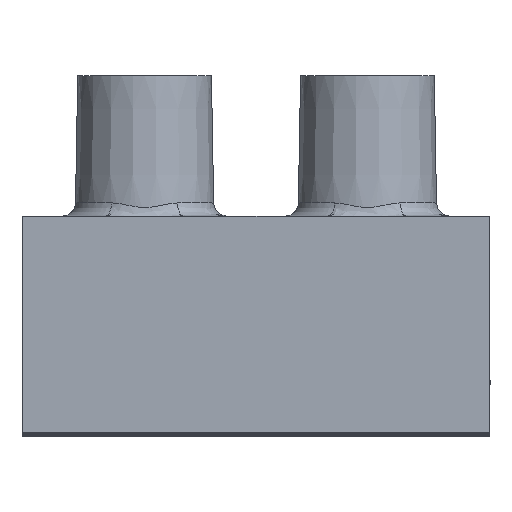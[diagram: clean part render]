
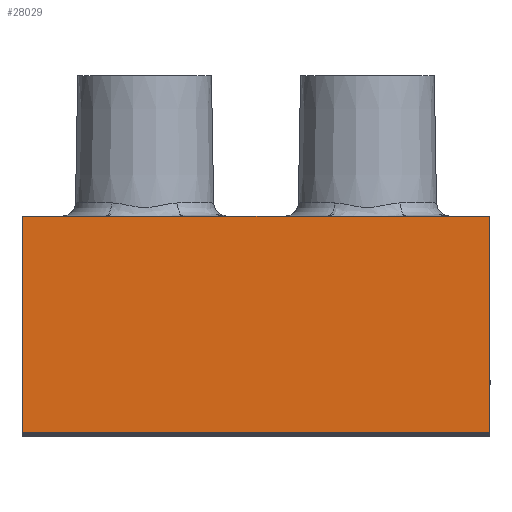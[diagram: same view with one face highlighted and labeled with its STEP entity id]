
A CAD part, top view. The second image highlights one B-rep face of the part: STEP entity #28029.
In plain terms, the highlighted planar face has unit normal (0, 0, 1).
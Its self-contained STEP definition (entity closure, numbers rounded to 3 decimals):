
#4674 = CARTESIAN_POINT ( 'NONE',  ( 0.257, 6.064, 0. ) ) ;
#4914 = CARTESIAN_POINT ( 'NONE',  ( -13.278, 6.064, 0. ) ) ;
#13176 = CARTESIAN_POINT ( 'NONE',  ( 3.99, 6.064, 0. ) ) ;
#13276 = DIRECTION ( 'NONE',  ( 1., 0., 0. ) ) ;
#13277 = VECTOR ( 'NONE', #13276, 1000. ) ;
#13279 = CARTESIAN_POINT ( 'NONE',  ( -6.51, 6.064, 0. ) ) ;
#13281 = LINE ( 'NONE', #13279, #13277 ) ;
#13307 = CARTESIAN_POINT ( 'NONE',  ( -3.278, 6.064, 0. ) ) ;
#13621 = DIRECTION ( 'NONE',  ( 1., 0., 0. ) ) ;
#13623 = VECTOR ( 'NONE', #13621, 1000. ) ;
#13625 = CARTESIAN_POINT ( 'NONE',  ( -6.51, 6.064, 0. ) ) ;
#13626 = LINE ( 'NONE', #13625, #13623 ) ;
#13632 = CARTESIAN_POINT ( 'NONE',  ( -17.01, 6.064, 0. ) ) ;
#13777 = CARTESIAN_POINT ( 'NONE',  ( -9.743, 6.064, 0. ) ) ;
#13997 = DIRECTION ( 'NONE',  ( 1., 0., 0. ) ) ;
#13999 = VECTOR ( 'NONE', #13997, 1000. ) ;
#14001 = CARTESIAN_POINT ( 'NONE',  ( -6.51, 6.064, 0. ) ) ;
#14012 = LINE ( 'NONE', #14001, #13999 ) ;
#14127 = DIRECTION ( 'NONE',  ( 1., 0., 0. ) ) ;
#14128 = VECTOR ( 'NONE', #14127, 1000. ) ;
#14130 = CARTESIAN_POINT ( 'NONE',  ( -6.51, 6.064, 0. ) ) ;
#14131 = LINE ( 'NONE', #14130, #14128 ) ;
#16723 = CARTESIAN_POINT ( 'NONE',  ( 3.99, -3.636, 0. ) ) ;
#16726 = DIRECTION ( 'NONE',  ( 0., -1., 0. ) ) ;
#16727 = VECTOR ( 'NONE', #16726, 1000. ) ;
#16729 = CARTESIAN_POINT ( 'NONE',  ( 3.99, 1.214, 0. ) ) ;
#16731 = LINE ( 'NONE', #16729, #16727 ) ;
#16836 = DIRECTION ( 'NONE',  ( 0., 1., 0. ) ) ;
#16837 = VECTOR ( 'NONE', #16836, 1000. ) ;
#16839 = CARTESIAN_POINT ( 'NONE',  ( -17.01, 1.214, 0. ) ) ;
#16841 = LINE ( 'NONE', #16839, #16837 ) ;
#16846 = CARTESIAN_POINT ( 'NONE',  ( -17.01, -3.636, 0. ) ) ;
#20731 = VERTEX_POINT ( 'NONE', #4674 ) ;
#20844 = VERTEX_POINT ( 'NONE', #4914 ) ;
#22358 = DIRECTION ( 'NONE',  ( -1., 0., 0. ) ) ;
#22360 = VECTOR ( 'NONE', #22358, 1000. ) ;
#22362 = CARTESIAN_POINT ( 'NONE',  ( -17.01, 6.064, 0. ) ) ;
#22363 = LINE ( 'NONE', #22362, #22360 ) ;
#22474 = DIRECTION ( 'NONE',  ( 1., 0., 0. ) ) ;
#22475 = VECTOR ( 'NONE', #22474, 1000. ) ;
#22477 = CARTESIAN_POINT ( 'NONE',  ( -17.01, -3.636, 0. ) ) ;
#22478 = LINE ( 'NONE', #22477, #22475 ) ;
#22483 = FACE_OUTER_BOUND ( 'NONE', #28032, .T. ) ;
#22632 = DIRECTION ( 'NONE',  ( 0., 1., 0. ) ) ;
#22634 = DIRECTION ( 'NONE',  ( 0., 0., -1. ) ) ;
#22635 = CARTESIAN_POINT ( 'NONE',  ( -17.01, -3.636, 0. ) ) ;
#22637 = AXIS2_PLACEMENT_3D ( 'NONE', #22635, #22634, #22632 ) ;
#22638 = PLANE ( 'NONE',  #22637 ) ;
#24668 = VERTEX_POINT ( 'NONE', #13176 ) ;
#24695 = EDGE_CURVE ( 'NONE', #20844, #24734, #13281, .T. ) ;
#24708 = VERTEX_POINT ( 'NONE', #13307 ) ;
#24716 = VERTEX_POINT ( 'NONE', #13632 ) ;
#24719 = EDGE_CURVE ( 'NONE', #24716, #20844, #13626, .T. ) ;
#24734 = VERTEX_POINT ( 'NONE', #13777 ) ;
#24808 = EDGE_CURVE ( 'NONE', #24708, #20731, #14012, .T. ) ;
#24813 = EDGE_CURVE ( 'NONE', #20731, #24668, #14131, .T. ) ;
#26029 = EDGE_CURVE ( 'NONE', #24668, #26032, #16731, .T. ) ;
#26032 = VERTEX_POINT ( 'NONE', #16723 ) ;
#26051 = VERTEX_POINT ( 'NONE', #16846 ) ;
#26055 = EDGE_CURVE ( 'NONE', #26051, #24716, #16841, .T. ) ;
#27994 = ORIENTED_EDGE ( 'NONE', *, *, #24813, .F. ) ;
#27995 = ORIENTED_EDGE ( 'NONE', *, *, #24808, .F. ) ;
#27997 = ORIENTED_EDGE ( 'NONE', *, *, #28000, .T. ) ;
#28000 = EDGE_CURVE ( 'NONE', #24708, #24734, #22363, .T. ) ;
#28003 = ORIENTED_EDGE ( 'NONE', *, *, #24695, .F. ) ;
#28004 = ORIENTED_EDGE ( 'NONE', *, *, #24719, .F. ) ;
#28005 = ORIENTED_EDGE ( 'NONE', *, *, #26055, .F. ) ;
#28006 = ORIENTED_EDGE ( 'NONE', *, *, #28007, .T. ) ;
#28007 = EDGE_CURVE ( 'NONE', #26051, #26032, #22478, .T. ) ;
#28029 = ADVANCED_FACE ( 'NONE', ( #22483 ), #22638, .F. ) ;
#28032 = EDGE_LOOP ( 'NONE', ( #28034, #27994, #27995, #27997, #28003, #28004, #28005, #28006 ) ) ;
#28034 = ORIENTED_EDGE ( 'NONE', *, *, #26029, .F. ) ;
